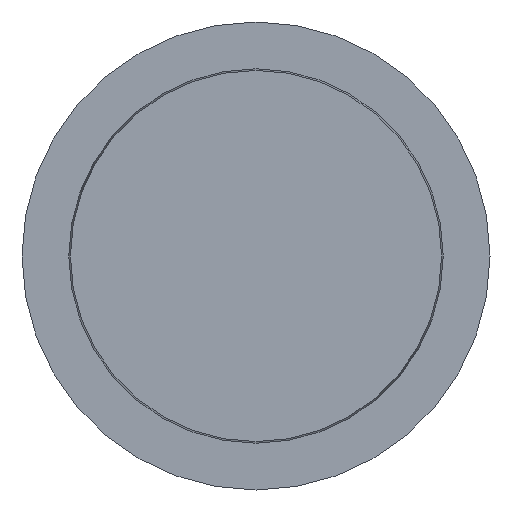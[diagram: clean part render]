
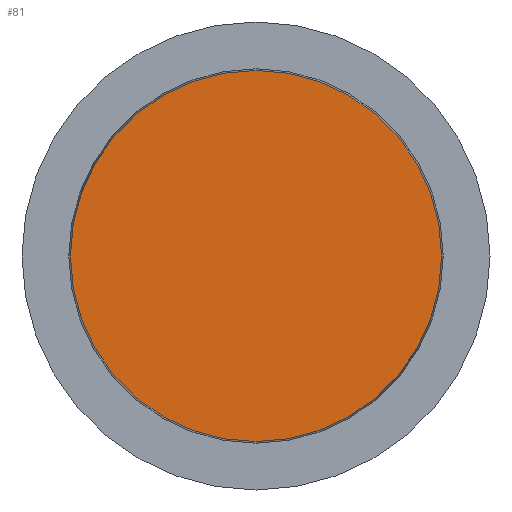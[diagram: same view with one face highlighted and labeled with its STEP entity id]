
A CAD part, front view. The second image highlights one B-rep face of the part: STEP entity #81.
In plain terms, the highlighted planar face has unit normal (0, -1, 0).
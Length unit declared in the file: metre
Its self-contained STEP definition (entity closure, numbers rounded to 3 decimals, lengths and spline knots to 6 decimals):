
#81 = ADVANCED_FACE( '', ( #104 ), #105, .T. );
#104 = FACE_OUTER_BOUND( '', #142, .T. );
#105 = PLANE( '', #143 );
#142 = EDGE_LOOP( '', ( #188 ) );
#143 = AXIS2_PLACEMENT_3D( '', #189, #190, #191 );
#188 = ORIENTED_EDGE( '', *, *, #237, .T. );
#189 = CARTESIAN_POINT( '', ( 0., 0., 0. ) );
#190 = DIRECTION( '', ( 0., -1., 0. ) );
#191 = DIRECTION( '', ( 0., 0., -1. ) );
#237 = EDGE_CURVE( '', #253, #253, #254, .T. );
#253 = VERTEX_POINT( '', #277 );
#254 = CIRCLE( '', #278, 0.03965 );
#277 = CARTESIAN_POINT( '', ( 0., 0., -0.03965 ) );
#278 = AXIS2_PLACEMENT_3D( '', #305, #306, #307 );
#305 = CARTESIAN_POINT( '', ( 0., 0., 0. ) );
#306 = DIRECTION( '', ( 0., -1., 0. ) );
#307 = DIRECTION( '', ( 0., 0., -1. ) );
